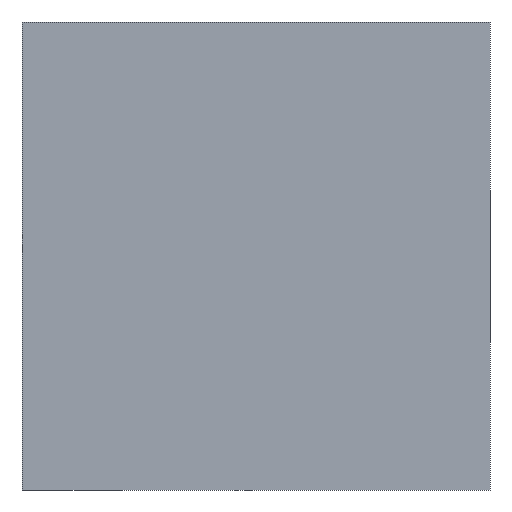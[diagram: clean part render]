
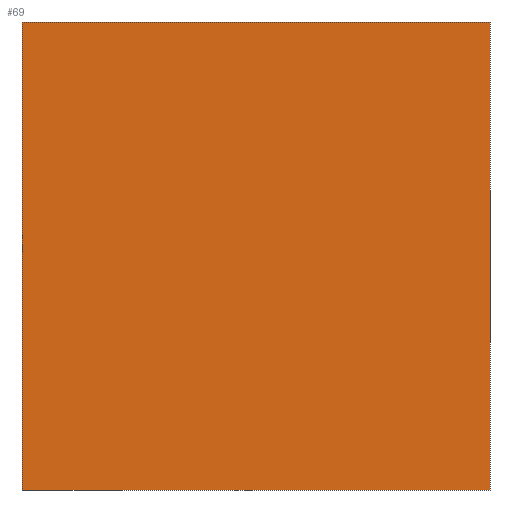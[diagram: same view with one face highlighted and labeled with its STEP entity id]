
A CAD part, front view. The second image highlights one B-rep face of the part: STEP entity #69.
In plain terms, the highlighted planar face has unit normal (0, -1, 0).
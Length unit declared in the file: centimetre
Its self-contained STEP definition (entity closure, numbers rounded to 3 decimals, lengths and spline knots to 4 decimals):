
#18 = FACE_OUTER_BOUND ( 'NONE', #280, .T. ) ;
#21 = LINE ( 'NONE', #380, #73 ) ;
#29 = ORIENTED_EDGE ( 'NONE', *, *, #251, .T. ) ;
#44 = VECTOR ( 'NONE', #53, 100. ) ;
#53 = DIRECTION ( 'NONE',  ( 1., 0., 0. ) ) ;
#57 = LINE ( 'NONE', #343, #44 ) ;
#65 = AXIS2_PLACEMENT_3D ( 'NONE', #416, #290, #89 ) ;
#68 = CARTESIAN_POINT ( 'NONE',  ( 1000., 0., 0. ) ) ;
#69 = ADVANCED_FACE ( 'NONE', ( #18 ), #285, .F. ) ;
#73 = VECTOR ( 'NONE', #88, 100. ) ;
#78 = CARTESIAN_POINT ( 'NONE',  ( 1000., 0., 1000. ) ) ;
#81 = CARTESIAN_POINT ( 'NONE',  ( 0., 0., 1000. ) ) ;
#88 = DIRECTION ( 'NONE',  ( 0., 0., -1. ) ) ;
#89 = DIRECTION ( 'NONE',  ( 0., 0., 1. ) ) ;
#105 = LINE ( 'NONE', #277, #391 ) ;
#108 = DIRECTION ( 'NONE',  ( 1., 0., 0. ) ) ;
#121 = CARTESIAN_POINT ( 'NONE',  ( 1000., 0., 1000. ) ) ;
#183 = VERTEX_POINT ( 'NONE', #121 ) ;
#212 = ORIENTED_EDGE ( 'NONE', *, *, #255, .F. ) ;
#213 = DIRECTION ( 'NONE',  ( 0., 0., -1. ) ) ;
#238 = VERTEX_POINT ( 'NONE', #246 ) ;
#246 = CARTESIAN_POINT ( 'NONE',  ( 0., 0., 0. ) ) ;
#251 = EDGE_CURVE ( 'NONE', #238, #427, #105, .T. ) ;
#255 = EDGE_CURVE ( 'NONE', #183, #427, #371, .T. ) ;
#269 = VERTEX_POINT ( 'NONE', #81 ) ;
#277 = CARTESIAN_POINT ( 'NONE',  ( 0., 0., 0. ) ) ;
#280 = EDGE_LOOP ( 'NONE', ( #29, #212, #330, #298 ) ) ;
#285 = PLANE ( 'NONE',  #65 ) ;
#290 = DIRECTION ( 'NONE',  ( 0., 1., 0. ) ) ;
#293 = EDGE_CURVE ( 'NONE', #269, #238, #21, .T. ) ;
#298 = ORIENTED_EDGE ( 'NONE', *, *, #293, .T. ) ;
#307 = EDGE_CURVE ( 'NONE', #269, #183, #57, .T. ) ;
#330 = ORIENTED_EDGE ( 'NONE', *, *, #307, .F. ) ;
#343 = CARTESIAN_POINT ( 'NONE',  ( 0., 0., 1000. ) ) ;
#371 = LINE ( 'NONE', #78, #400 ) ;
#380 = CARTESIAN_POINT ( 'NONE',  ( 0., 0., 1000. ) ) ;
#391 = VECTOR ( 'NONE', #108, 100. ) ;
#400 = VECTOR ( 'NONE', #213, 100. ) ;
#416 = CARTESIAN_POINT ( 'NONE',  ( 0., 0., 1000. ) ) ;
#427 = VERTEX_POINT ( 'NONE', #68 ) ;
